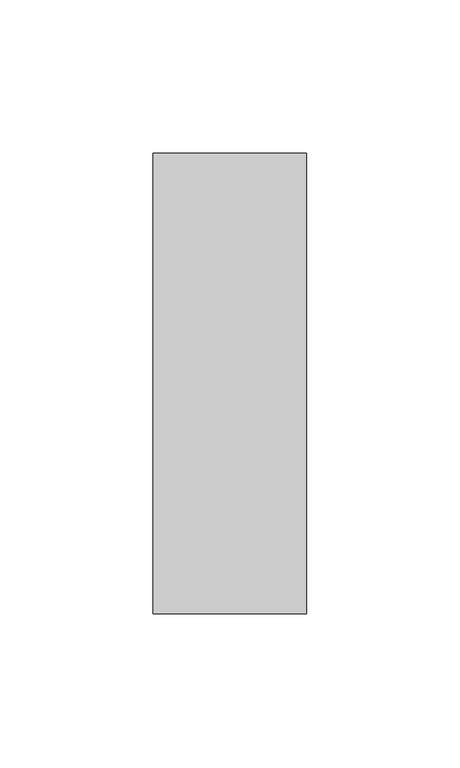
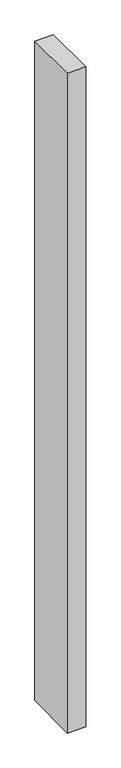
"""IFC4 building model written with IfcOpenShell, lengths in millimetres: member geometry, Прямоугольный импост : 50 x 150 мм."""

from ifc_helpers import new_model, si_unit, origin, place, context, project, spatial, faceted_brep, source, transform, mapped, element, save


def member_aab37748(model_context):
    return source(origin(), model_context, "Body", "Brep", [
        faceted_brep([(-25.0, 75.0, -0.1890728), (25.0, 75.0, -0.0092464), (25.0, 75.0, -1877.5106768), (-25.0, 75.0, -1877.3123588), (-25.0, -75.0, 0.0092464), (-25.0, -75.0, -1879.8731951), (25.0, -75.0, 0.1890728), (25.0, -75.0, -1880.0715131)], [[[0, 1, 2, 3]], [[4, 0, 3, 5]], [[6, 4, 5, 7]], [[1, 6, 7, 2]], [[1, 0, 4, 6]], [[2, 7, 5, 3]]]),
    ])


if __name__ == "__main__":
    model = new_model("IFC4")
    model_context = context("Model", 3, world=origin())
    ifc_project = project(units=[si_unit("LENGTHUNIT", "METRE", prefix="MILLI")], contexts=[model_context])
    site = spatial("IfcSite", under=ifc_project)
    building = spatial("IfcBuilding", under=site)
    placement = place(None, origin())
    member_shape = member_aab37748(model_context)
    element("IfcMember", 1, ObjectType="Прямоугольный импост : 50 x 150 мм", at=placement, inside=building, context=model_context, shape_type="MappedRepresentation", body=[
        mapped(member_shape, transform((0.0, 0.0, 0.0), x_axis=(1.0, 0.0, 0.0), y_axis=(0.0, 1.0, 0.0), z_axis=(0.0, 0.0, 1.0))),
    ])
    save(model, "model.ifc")
